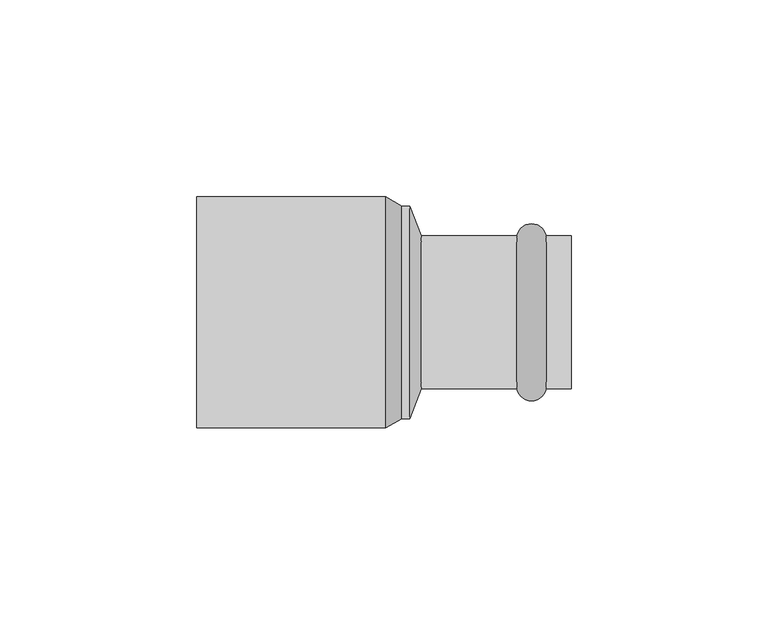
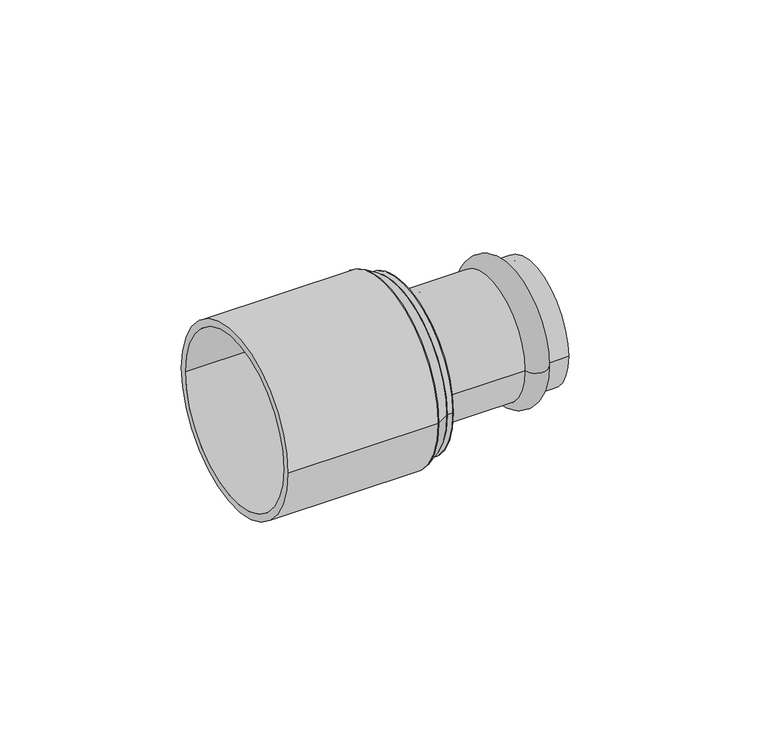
"""IFC4 building model written with IfcOpenShell, lengths in millimetres: pipe fitting geometry, VALTEC_VTi.905.I_Вставка переходная_Нержавеющая сталь : VTi.905.I."""

from ifc_helpers import new_model, si_unit, point, frame, origin, origin_2d, place, context, project, spatial, polyline, circle_curve, ellipse_curve, trimmed, segment, composite_curve, outline, extrude, source, transform, mapped, element, save
from ifc_brep_helpers import plane_surface, cylinder_surface, revolved_surface, advanced_brep


def pipe_fitting_a1be2b61(model_context):
    return source(origin(), model_context, "Body", "SolidModel", [
        advanced_brep(
        [(41.1432371, -19.4, 0.0), (33.7567629, -19.4, 0.0), (33.7567629, 19.4, 0.0), (41.1432371, 19.4, 0.0), (47.5, -19.4, 0.0), (47.5, 19.4, 0.0), (47.5, -17.5, 0.0), (47.5, 17.5, 0.0), (9.5, -17.5, 0.0), (9.5, 17.5, 0.0), (9.5, -19.4, 0.0), (9.5, 19.4, 0.0)],
        [
            (0, 1, circle_curve(frame((37.45, -18.75, 0.0), z_axis=(0.0, 0.0, -1.0), x_axis=(-1.0, 0.0, 0.0)), 3.75)),
            (1, 2, circle_curve(frame((33.7567629, 0.0, 0.0), z_axis=(1.0, 0.0, 0.0), x_axis=(0.0, 1.0, 0.0)), 19.4)),
            (2, 3, circle_curve(frame((37.45, 18.75, 0.0), z_axis=(0.0, 0.0, -1.0), x_axis=(-1.0, 0.0, 0.0)), 3.75)),
            (3, 0, circle_curve(frame((41.1432371, 0.0, 0.0), z_axis=(-1.0, 0.0, 0.0), x_axis=(0.0, 1.0, 0.0)), 19.4)),
            (2, 1, circle_curve(frame((33.7567629, 0.0, 0.0), z_axis=(1.0, 0.0, 0.0), x_axis=(0.0, 1.0, 0.0)), 19.4)),
            (0, 3, circle_curve(frame((41.1432371, 0.0, 0.0), z_axis=(-1.0, 0.0, 0.0), x_axis=(0.0, 1.0, 0.0)), 19.4)),
            (4, 0),
            (3, 5),
            (5, 4, circle_curve(frame((47.5, 0.0, 0.0), z_axis=(-1.0, 0.0, 0.0), x_axis=(0.0, 1.0, 0.0)), 19.4)),
            (4, 5, circle_curve(frame((47.5, 0.0, 0.0), z_axis=(-1.0, 0.0, 0.0), x_axis=(0.0, 1.0, 0.0)), 19.4)),
            (6, 4),
            (5, 7),
            (7, 6, circle_curve(frame((47.5, 0.0, 0.0), z_axis=(-1.0, 0.0, 0.0), x_axis=(0.0, 1.0, 0.0)), 17.5)),
            (6, 7, circle_curve(frame((47.5, 0.0, 0.0), z_axis=(-1.0, 0.0, 0.0), x_axis=(0.0, 1.0, 0.0)), 17.5)),
            (8, 6),
            (7, 9),
            (9, 8, circle_curve(frame((9.5, 0.0, 0.0), z_axis=(-1.0, 0.0, 0.0), x_axis=(0.0, 1.0, 0.0)), 17.5)),
            (8, 9, circle_curve(frame((9.5, 0.0, 0.0), z_axis=(-1.0, 0.0, 0.0), x_axis=(0.0, 1.0, 0.0)), 17.5)),
            (10, 8),
            (9, 11),
            (11, 10, circle_curve(frame((9.5, 0.0, 0.0), z_axis=(-1.0, 0.0, 0.0), x_axis=(0.0, 1.0, 0.0)), 19.4)),
            (10, 11, circle_curve(frame((9.5, 0.0, 0.0), z_axis=(-1.0, 0.0, 0.0), x_axis=(0.0, 1.0, 0.0)), 19.4)),
            (1, 10),
            (11, 2),
        ],
        [
            revolved_surface(trimmed(ellipse_curve(frame((37.45, 18.75, 0.0), z_axis=(0.0, 0.0, -1.0), x_axis=(-1.0, 0.0, 0.0)), 3.75, 3.75), [point((33.7567629, 19.4, 0.0))], [point((41.1432371, 19.4, 0.0))], True, "CARTESIAN"), (51.0364426, 0.0, 0.0), (1.0, 0.0, 0.0)),
            cylinder_surface(frame((51.0364426, 0.0, 0.0), z_axis=(1.0, 0.0, 0.0), x_axis=(0.0, 1.0, 0.0)), 19.4),
            plane_surface(frame((47.5, 0.0, 0.0), z_axis=(1.0, 0.0, 0.0), x_axis=(0.0, 1.0, 0.0))),
            revolved_surface(polyline([(47.5, 17.5, 0.0), (9.5, 17.5, 0.0)]), (51.0364426, 0.0, 0.0), (1.0, 0.0, 0.0)),
            plane_surface(frame((9.5, 0.0, 0.0), z_axis=(-1.0, 0.0, 0.0), x_axis=(0.0, 1.0, 0.0))),
        ],
        [
            (0, [[1, 2, 3, 4]]),
            (0, [[-3, 5, -1, 6]]),
            (1, [[7, -4, 8, 9]]),
            (1, [[-8, -6, -7, 10]]),
            (2, [[11, -9, 12, 13]]),
            (2, [[-12, -10, -11, 14]]),
            (3, [[15, -13, 16, 17]]),
            (3, [[-16, -14, -15, 18]]),
            (4, [[19, -17, 20, 21]]),
            (4, [[-20, -18, -19, 22]]),
            (1, [[23, -21, 24, -2]]),
            (1, [[-24, -22, -23, -5]]),
        ],
    ),
        advanced_brep(
        [(6.5, -27.0, 0.0), (6.5, 27.0, 0.0), (9.5, -19.4, 0.0), (9.5, 19.4, 0.0)],
        [
            (0, 1, circle_curve(frame((6.5, 0.0, 0.0), z_axis=(-1.0, 0.0, 0.0), x_axis=(0.0, -1.0, 0.0)), 27.0)),
            (1, 0, circle_curve(frame((6.5, 0.0, 0.0), z_axis=(-1.0, 0.0, 0.0), x_axis=(0.0, 1.0, 0.0)), 27.0)),
            (2, 3, circle_curve(frame((9.5, 0.0, 0.0), z_axis=(1.0, 0.0, 0.0), x_axis=(0.0, 1.0, 0.0)), 19.4)),
            (3, 2, circle_curve(frame((9.5, 0.0, 0.0), z_axis=(1.0, 0.0, 0.0), x_axis=(0.0, -1.0, 0.0)), 19.4)),
            (2, 0),
            (1, 3),
        ],
        [
            plane_surface(frame((6.5, 0.0, 0.0), z_axis=(-1.0, 0.0, 0.0), x_axis=(0.0, 0.0, 1.0))),
            plane_surface(frame((9.5, 0.0, 0.0), z_axis=(1.0, 0.0, 0.0), x_axis=(0.0, 0.0, 1.0))),
            revolved_surface(polyline([(9.5, -19.399999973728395, 0.0), (6.5, -27.0, 0.0)]), (17.1578947, 0.0, 0.0), (-1.0, 0.0, 0.0)),
            revolved_surface(polyline([(9.5, 19.399999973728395, 0.0), (6.5, 27.0, 0.0)]), (17.1578947, 0.0, 0.0), (-1.0, 0.0, 0.0)),
        ],
        [
            (0, [[1, 2]]),
            (1, [[3, 4]]),
            (2, [[-3, 5, -2, 6]]),
            (3, [[-4, -6, -1, -5]]),
        ],
    ),
        extrude(outline(composite_curve([segment(trimmed(circle_curve(origin_2d(), 27.0), [point((-27.0, 0.0))], [point((27.0, 0.0))], False, "CARTESIAN"), True, "CONTINUOUS"), segment(trimmed(circle_curve(origin_2d(), 27.0), [point((27.0, 0.0))], [point((-27.0, 0.0))], False, "CARTESIAN"), True, "CONTINUOUS")], self_intersect=False)), frame((4.5, 0.0, 0.0), z_axis=(1.0, 0.0, 0.0), x_axis=(0.0, 1.0, 0.0)), (0.0, 0.0, 1.0), 2.0),
        advanced_brep(
        [(4.5, -27.0, 0.0), (4.5, 27.0, 0.0), (0.5, -29.3, 0.0), (0.5, 29.3, 0.0)],
        [
            (0, 1, circle_curve(frame((4.5, 0.0, 0.0), z_axis=(1.0, 0.0, 0.0), x_axis=(0.0, -1.0, 0.0)), 27.0)),
            (1, 0, circle_curve(frame((4.5, 0.0, 0.0), z_axis=(1.0, 0.0, 0.0), x_axis=(0.0, 1.0, 0.0)), 27.0)),
            (2, 3, circle_curve(frame((0.5, 0.0, 0.0), z_axis=(-1.0, 0.0, 0.0), x_axis=(0.0, 1.0, 0.0)), 29.3)),
            (3, 2, circle_curve(frame((0.5, 0.0, 0.0), z_axis=(-1.0, 0.0, 0.0), x_axis=(0.0, -1.0, 0.0)), 29.3)),
            (3, 1),
            (0, 2),
        ],
        [
            plane_surface(frame((4.5, 0.0, 0.0), z_axis=(1.0, 0.0, 0.0), x_axis=(0.0, 0.0, -1.0))),
            plane_surface(frame((0.5, 0.0, 0.0), z_axis=(-1.0, 0.0, 0.0), x_axis=(0.0, 0.0, -1.0))),
            revolved_surface(polyline([(4.5, -26.99999999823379, 0.0), (0.5, -29.3, 0.0)]), (51.4565217, 0.0, 0.0), (-1.0, 0.0, 0.0)),
            revolved_surface(polyline([(4.5, 26.99999999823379, 0.0), (0.5, 29.3, 0.0)]), (51.4565217, 0.0, 0.0), (-1.0, 0.0, 0.0)),
        ],
        [
            (0, [[1, 2]]),
            (1, [[3, 4]]),
            (2, [[-4, 5, -1, 6]]),
            (3, [[-3, -6, -2, -5]]),
        ],
    ),
        extrude(outline(composite_curve([segment(trimmed(circle_curve(origin_2d(), 29.3), [point((-29.3, 0.0))], [point((29.3, 0.0))], False, "CARTESIAN"), True, "CONTINUOUS"), segment(trimmed(circle_curve(origin_2d(), 29.3), [point((29.3, 0.0))], [point((-29.3, 0.0))], False, "CARTESIAN"), True, "CONTINUOUS")], self_intersect=False), holes=[composite_curve([segment(trimmed(circle_curve(origin_2d(), 27.0), [point((-27.0, 0.0))], [point((27.0, 0.0))], True, "CARTESIAN"), True, "CONTINUOUS"), segment(trimmed(circle_curve(origin_2d(), 27.0), [point((27.0, 0.0))], [point((-27.0, 0.0))], True, "CARTESIAN"), True, "CONTINUOUS")], self_intersect=False)]), frame((-47.5, 0.0, 0.0), z_axis=(1.0, 0.0, 0.0), x_axis=(0.0, 1.0, 0.0)), (0.0, 0.0, 1.0), 48.0),
    ])


if __name__ == "__main__":
    model = new_model("IFC4")
    model_context = context("Model", 3, world=origin())
    ifc_project = project(units=[si_unit("LENGTHUNIT", "METRE", prefix="MILLI")], contexts=[model_context])
    site = spatial("IfcSite", under=ifc_project)
    building = spatial("IfcBuilding", under=site)
    placement = place(None, origin())
    pipe_fitting_shape = pipe_fitting_a1be2b61(model_context)
    element("IfcPipeFitting", 1, ObjectType="VALTEC_VTi.905.I_Вставка переходная_Нержавеющая сталь : VTi.905.I", at=placement, inside=building, context=model_context, shape_type="MappedRepresentation", body=[
        mapped(pipe_fitting_shape, transform((0.0, 0.0, 0.0), x_axis=(1.0, 0.0, 0.0), y_axis=(0.0, 1.0, 0.0), z_axis=(0.0, 0.0, 1.0))),
    ])
    save(model, "model.ifc")
